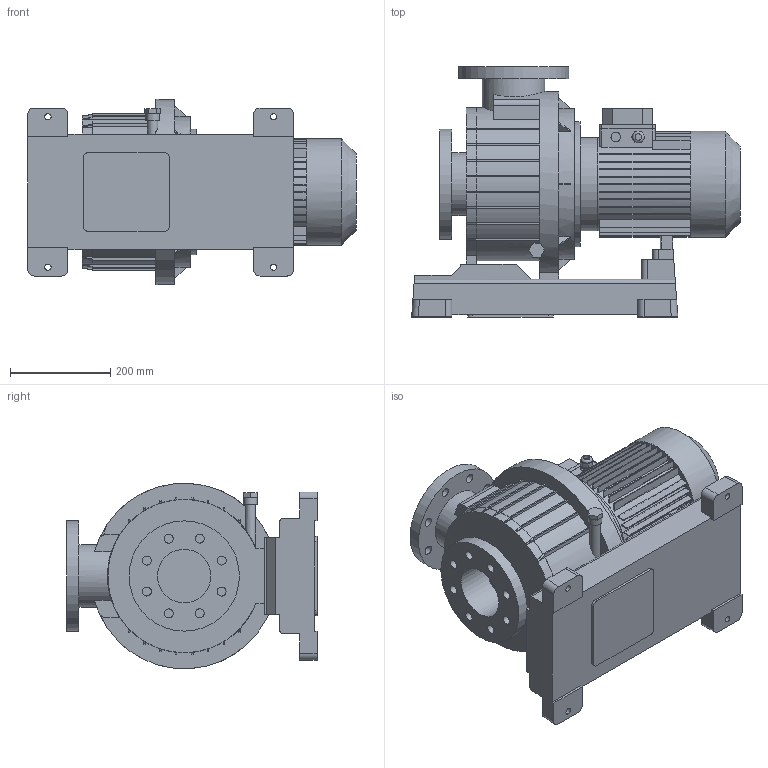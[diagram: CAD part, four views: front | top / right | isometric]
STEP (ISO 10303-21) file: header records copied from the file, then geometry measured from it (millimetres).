
FILE_DESCRIPTION(/* description */ ('Unknown'),/* implementation_level */ '2;1');
FILE_NAME(/* name */ 'KONTRA 550',/* time_stamp */ '2018-10-21T18:12:25+02:00',/* author */ ('Unknown'),/* organization */ ('Unknown'),/* preprocessor_version */ 'ST-DEVELOPER v16.7',/* originating_system */ 'DEX',/* authorisation */ $);
FILE_SCHEMA (('AUTOMOTIVE_DESIGN {1 0 10303 214 3 1 1}'));
Length unit declared in the file: millimetre
Products named in the file (1): KONTRA 550
Bounding box: 655.35 x 499 x 369.55 mm (x, y, z)
Volume: 40044408 mm3; surface area: 1496774.7 mm2
Topology: 1 solids, 2 shells, 595 faces, 1606 edges, 1032 vertices
Faces by surface type: plane 464, cylinder 113, cone 17, torus 1
Full cylindrical faces by diameter (mm): 12.5 x4, 13 x1, 18 x16, 19 x2, 20 x2, 21 x3, 23 x1, 27 x1, 106.5 x1, 108 x1, 125 x2, 185 x1, 186 x1, 212 x1, 220 x2, 250 x1, 300 x1
Entity records: 22551 total; most frequent: CARTESIAN_POINT 3348, DIRECTION 3139, ORIENTED_EDGE 3082, EDGE_CURVE 1541, LINE 1067, VECTOR 1067, AXIS2_PLACEMENT_3D 1036, VERTEX_POINT 1010
